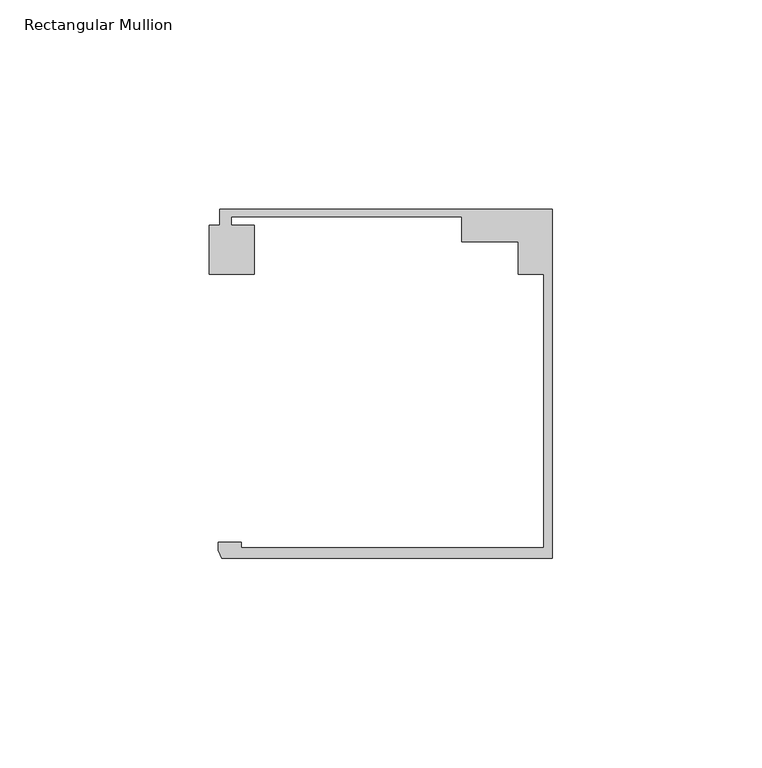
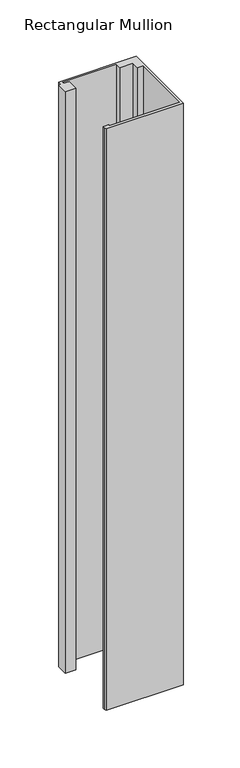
"""IFC4 building model written with IfcOpenShell, lengths in millimetres: member geometry, Rectangular Mullion : Danpal_Airpt_End-Mullion_B1."""

from ifc_helpers import new_model, si_unit, frame, origin, place, context, project, spatial, polyline, outline, extrude, source, transform, mapped, element, save


def rectangular_mullion_c77fbf88(model_context):
    return source(origin(), model_context, "Body", "SweptSolid", [
        extrude(outline(polyline([(-74.2474668, -74.9940824), (-2.0000001, -74.9940824), (-2.0000001, -9.7188964), (-8.1, -9.7188964), (-8.1, -1.8818054), (-21.5478166, -1.8818054), (-21.5478166, 4.0051512), (-76.6478166, 4.0051512), (-76.6478166, 2.0051513), (-71.1433532, 2.0051513), (-71.1433532, -9.6875514), (-81.8592324, -9.6875514), (-81.8592324, 2.0051513), (-79.3474874, 2.0051513), (-79.3474874, 5.8051514), (0.0, 5.8051514), (0.0, -77.4940825), (-78.8515009, -77.4940825), (-79.7784606, -75.5472671), (-79.7784606, -73.6940824), (-74.2474668, -73.6940824), (-74.2474668, -74.9940824)])), frame((0.0, 0.0, -630.0), z_axis=(0.0, 0.0, 1.0), x_axis=(1.0, 0.0, 0.0)), (0.0, 0.0, 1.0), 630.0),
    ])


if __name__ == "__main__":
    model = new_model("IFC4")
    model_context = context("Model", 3, world=origin())
    ifc_project = project(units=[si_unit("LENGTHUNIT", "METRE", prefix="MILLI")], contexts=[model_context])
    site = spatial("IfcSite", under=ifc_project)
    building = spatial("IfcBuilding", under=site)
    placement = place(None, origin())
    rectangular_mullion_shape = rectangular_mullion_c77fbf88(model_context)
    element("IfcMember", 1, ObjectType="Rectangular Mullion : Danpal_Airpt_End-Mullion_B1", at=placement, inside=building, context=model_context, shape_type="MappedRepresentation", body=[
        mapped(rectangular_mullion_shape, transform((0.0, 0.0, 0.0), x_axis=(1.0, 0.0, 0.0), y_axis=(0.0, 1.0, 0.0), z_axis=(0.0, 0.0, 1.0))),
    ])
    save(model, "model.ifc")
